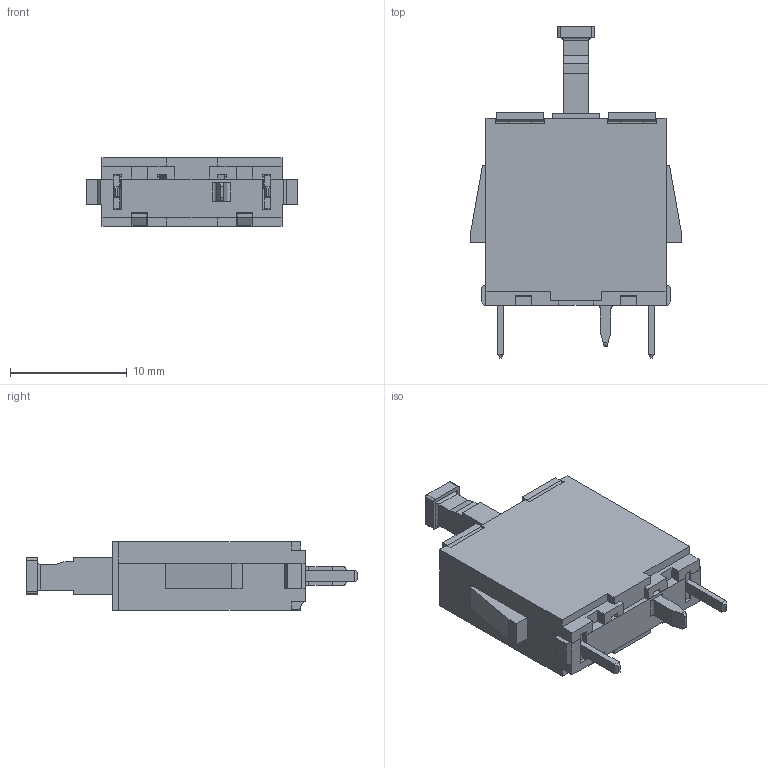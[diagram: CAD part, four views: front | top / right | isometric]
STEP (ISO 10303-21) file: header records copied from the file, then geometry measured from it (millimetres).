
FILE_DESCRIPTION((''),'2;1');
FILE_NAME('152842101AF7_SW0001','2017-03-13T',('SESA46431'),('Schneider-Electric'),'PRO/ENGINEER BY PARAMETRIC TECHNOLOGY CORPORATION, 2015440','PRO/ENGINEER BY PARAMETRIC TECHNOLOGY CORPORATION, 2015440','');
FILE_SCHEMA(('CONFIG_CONTROL_DESIGN'));
Length unit declared in the file: millimetre
Products named in the file (1): 152842101AF7_SW0001
Bounding box: 18 x 28.4 x 5.9 mm (x, y, z)
Surface area: 2587.3 mm2 (no closed solid volume)
Topology: 0 solids, 5 shells, 574 faces, 1710 edges, 1124 vertices
Faces by surface type: plane 526, cylinder 28, torus 8, cone 8, sphere 4
Entity records: 18916 total; most frequent: CARTESIAN_POINT 3526, ORIENTED_EDGE 3300, DIRECTION 2926, EDGE_CURVE 1706, VECTOR 1578, LINE 1578, VERTEX_POINT 1124, AXIS2_PLACEMENT_3D 674
